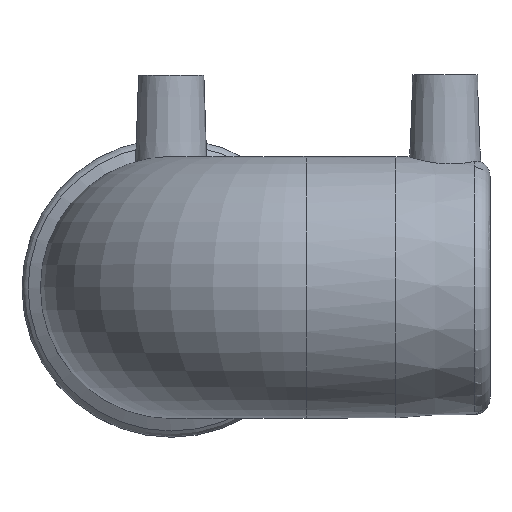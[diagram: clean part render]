
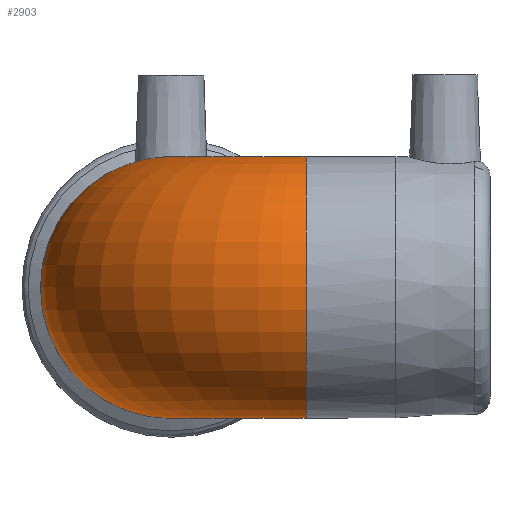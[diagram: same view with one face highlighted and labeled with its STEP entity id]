
A CAD part, top view. The second image highlights one B-rep face of the part: STEP entity #2903.
In plain terms, the highlighted toroidal (fillet/blend) face has major radius 33 mm and minor radius 32 mm.
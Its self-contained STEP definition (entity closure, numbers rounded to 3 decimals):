
#548=TOROIDAL_SURFACE('',#3653,33.,32.);
#641=ORIENTED_EDGE('',*,*,#1452,.F.);
#642=ORIENTED_EDGE('',*,*,#1456,.T.);
#1452=EDGE_CURVE('',#1863,#1863,#2147,.F.);
#1456=EDGE_CURVE('',#1867,#1867,#2149,.F.);
#1863=VERTEX_POINT('',#5039);
#1867=VERTEX_POINT('',#5061);
#2147=CIRCLE('',#3645,32.);
#2149=CIRCLE('',#3649,32.);
#2355=EDGE_LOOP('',(#641));
#2356=EDGE_LOOP('',(#642));
#2630=FACE_BOUND('',#2355,.T.);
#2631=FACE_BOUND('',#2356,.T.);
#2903=ADVANCED_FACE('',(#2630,#2631),#548,.T.);
#3645=AXIS2_PLACEMENT_3D('',#5038,#4046,#4047);
#3649=AXIS2_PLACEMENT_3D('',#5060,#4054,#4055);
#3653=AXIS2_PLACEMENT_3D('',#5079,#4062,#4063);
#4046=DIRECTION('',(-1.,0.,0.));
#4047=DIRECTION('',(0.,0.,-1.));
#4054=DIRECTION('',(0.,0.,-1.));
#4055=DIRECTION('',(1.,0.,0.));
#4062=DIRECTION('',(0.,1.,0.));
#4063=DIRECTION('',(0.,0.,1.));
#5038=CARTESIAN_POINT('',(33.,0.,78.));
#5039=CARTESIAN_POINT('',(33.,0.,46.));
#5060=CARTESIAN_POINT('',(0.,0.,45.));
#5061=CARTESIAN_POINT('',(32.,0.,45.));
#5079=CARTESIAN_POINT('',(33.,0.,45.));
